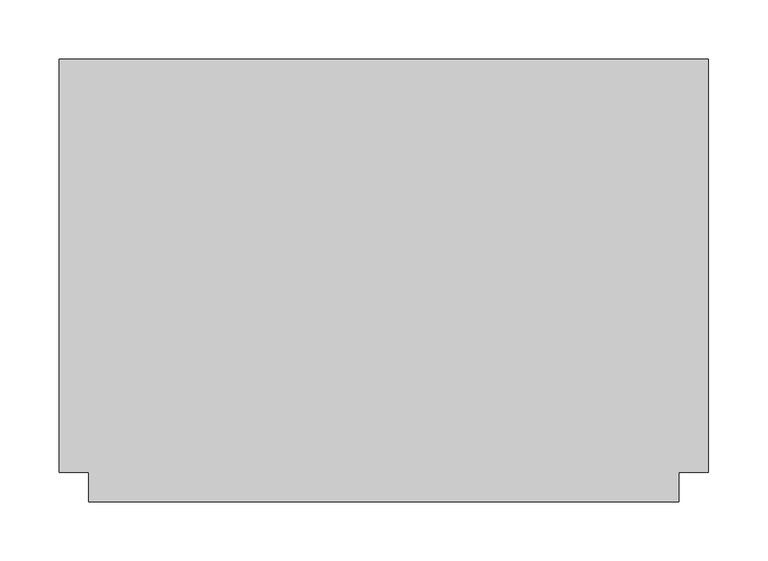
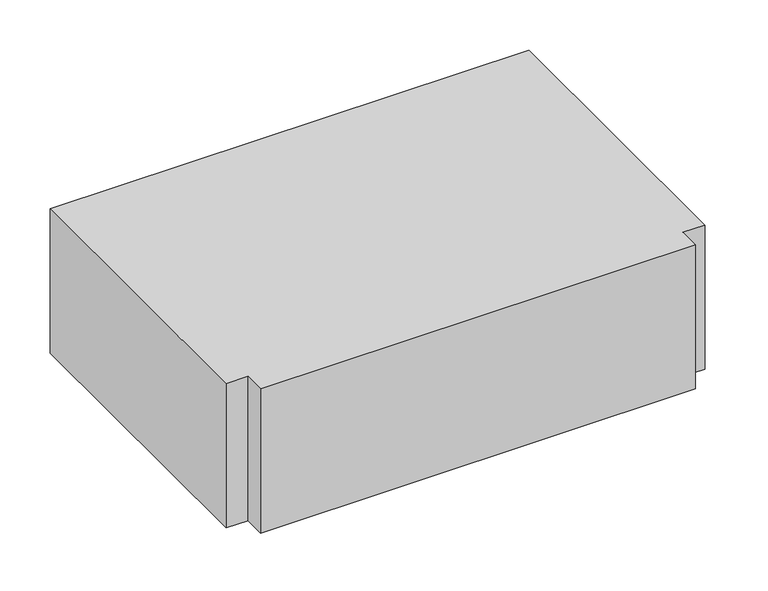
"""IFC4 building model written with IfcOpenShell, lengths in millimetres: duct fitting geometry, M_Te rectangular : Estándar."""

import ifcopenshell
import ifcopenshell.guid

model = None  # the IFC model being written
_history = None  # IfcOwnerHistory: only IFC2X3 demands one
_inside = {}  # id of a spatial element -> (the spatial element, [elements in it])
_under = {}  # id of a project, library or spatial element -> (it, [spatial elements below it])
_declared = {}  # id of a project -> (the project, [libraries it declares])
_typed = {}  # id of a type object -> (the type object, [elements of that type])
_made_of = {}  # id of a material, layer set ... -> (it, [elements and type objects made of it])


def new_model(schema):
    """Start an empty IFC model of exactly this schema.

    Asked for "IFC4X3", IfcOpenShell would pick the latest addendum, in which some entities
    have other attributes; the version numbers below select the first issue.
    IFC2X3 requires an IfcOwnerHistory on every rooted entity: one is made here for all.
    """
    global model, _history
    if schema == "IFC4X3":
        model = ifcopenshell.file(schema_version=(4, 3, 0, 0))
    else:
        model = ifcopenshell.file(schema=schema)
    _inside.clear()
    _under.clear()
    _declared.clear()
    _typed.clear()
    _made_of.clear()
    _history = None
    if model.schema == "IFC2X3":
        org = make("IfcOrganization", Name="unknown")
        user = make(
            "IfcPersonAndOrganization",
            ThePerson=make("IfcPerson", FamilyName="unknown"),
            TheOrganization=org,
        )
        app = make(
            "IfcApplication",
            ApplicationDeveloper=org,
            Version="unknown",
            ApplicationFullName="unknown",
            ApplicationIdentifier="unknown",
        )
        _history = make(
            "IfcOwnerHistory",
            OwningUser=user,
            OwningApplication=app,
            ChangeAction="ADDED",
            CreationDate=0,
        )
    return model


def make(cls, **values):
    """One entity of the class cls with the attributes given. An attribute that is None is left unset."""
    return model.create_entity(
        cls, **{name: value for name, value in values.items() if value is not None}
    )


def rooted(cls, **values):
    """An entity with a GlobalId (a new one), such as an element, a storey or a relation."""
    return make(cls, GlobalId=ifcopenshell.guid.new(), OwnerHistory=_history, **values)


def si_unit(unit_type, name, prefix=None):
    """IfcSIUnit, for example si_unit("LENGTHUNIT", "METRE", prefix="MILLI")."""
    return make("IfcSIUnit", UnitType=unit_type, Prefix=prefix, Name=name)


def assignment(units):
    """IfcUnitAssignment: the units of a project."""
    return None if units is None else make("IfcUnitAssignment", Units=units)


def point(xyz):
    """IfcCartesianPoint."""
    return None if xyz is None else make("IfcCartesianPoint", Coordinates=xyz)


def direction(xyz):
    """IfcDirection."""
    return None if xyz is None else make("IfcDirection", DirectionRatios=xyz)


def frame(location, z_axis=None, x_axis=None):
    """IfcAxis2Placement3D, a coordinate frame: its origin and axes. An axis left out is left unset."""
    return make(
        "IfcAxis2Placement3D",
        Location=point(location),
        Axis=direction(z_axis),
        RefDirection=direction(x_axis),
    )


def origin():
    """The frame at (0, 0, 0) with its axes left unset."""
    return frame((0.0, 0.0, 0.0))


def place(relative_to, where):
    """IfcLocalPlacement: puts the frame where relative to a parent placement (None: the world)."""
    return make(
        "IfcLocalPlacement", PlacementRelTo=relative_to, RelativePlacement=where
    )


def context(
    kind, dimensions, precision=None, world=None, true_north=None, identifier=None
):
    """IfcGeometricRepresentationContext, for example the 3D "Model" context."""
    return make(
        "IfcGeometricRepresentationContext",
        ContextIdentifier=identifier,
        ContextType=kind,
        CoordinateSpaceDimension=dimensions,
        Precision=precision,
        WorldCoordinateSystem=world,
        TrueNorth=true_north,
    )


def project(units=None, contexts=None):
    """IfcProject with its units and contexts."""
    return rooted(
        "IfcProject",
        Name="project",
        RepresentationContexts=contexts,
        UnitsInContext=assignment(units),
    )


def spatial(cls, under=None, at=None, **own):
    """A site, building, storey or space (cls), placed at a placement, below another one or the project."""
    s = rooted(cls, ObjectPlacement=at, **own)
    if under is not None:
        _under.setdefault(under.id(), (under, []))[1].append(s)
    return s


def polyline(points):
    """IfcPolyline through the points."""
    return make("IfcPolyline", Points=[point(p) for p in points])


def outline(outer, holes=None, kind="AREA"):
    """IfcArbitraryClosedProfileDef: a profile drawn as a closed curve; with holes, ...WithVoids."""
    if holes is None:
        return make("IfcArbitraryClosedProfileDef", ProfileType=kind, OuterCurve=outer)
    return make(
        "IfcArbitraryProfileDefWithVoids",
        ProfileType=kind,
        OuterCurve=outer,
        InnerCurves=holes,
    )


def extrude(swept, where, along, depth):
    """IfcExtrudedAreaSolid: the profile swept, set in the frame where, extruded along a direction by depth."""
    return make(
        "IfcExtrudedAreaSolid",
        SweptArea=swept,
        Position=where,
        ExtrudedDirection=direction(along),
        Depth=depth,
    )


def shape(context_of_items, identifier, shape_type, items):
    """IfcShapeRepresentation: the items that make up one representation, for example the "Body"."""
    return make(
        "IfcShapeRepresentation",
        ContextOfItems=context_of_items,
        RepresentationIdentifier=identifier,
        RepresentationType=shape_type,
        Items=items,
    )


def source(mapping_origin, context_of_items, identifier, shape_type, items):
    """IfcRepresentationMap: a shape defined once, which mapped items show again and again."""
    return make(
        "IfcRepresentationMap",
        MappingOrigin=mapping_origin,
        MappedRepresentation=shape(context_of_items, identifier, shape_type, items),
    )


def transform(
    local_origin,
    x_axis=None,
    y_axis=None,
    z_axis=None,
    scale=None,
    scale2=None,
    scale3=None,
    uniform=True,
):
    """IfcCartesianTransformationOperator3D, or its non-uniform kind. x_axis, y_axis, z_axis: its Axis1, 2, 3."""
    if uniform:
        return make(
            "IfcCartesianTransformationOperator3D",
            Axis1=direction(x_axis),
            Axis2=direction(y_axis),
            LocalOrigin=point(local_origin),
            Scale=scale,
            Axis3=direction(z_axis),
        )
    return make(
        "IfcCartesianTransformationOperator3DnonUniform",
        Axis1=direction(x_axis),
        Axis2=direction(y_axis),
        LocalOrigin=point(local_origin),
        Scale=scale,
        Axis3=direction(z_axis),
        Scale2=scale2,
        Scale3=scale3,
    )


def mapped(mapping_source, mapping_target):
    """IfcMappedItem: shows the shape of a source again, moved by a transform."""
    return make(
        "IfcMappedItem", MappingSource=mapping_source, MappingTarget=mapping_target
    )


def made_of(thing, what):
    """Note that an element or type object is made of a material, layer set ...; save() writes the relation."""
    if what is not None:
        _made_of.setdefault(what.id(), (what, []))[1].append(thing)
    return thing


def element(
    cls,
    number,
    at=None,
    inside=None,
    cuts=None,
    type_object=None,
    material=None,
    context=None,
    identifier="Body",
    shape_type=None,
    held_by="IfcProductDefinitionShape",
    body=None,
    shapes=None,
    **own,
):
    """One element of the class cls, such as IfcWall. Its Tag is "e" and its number.

    at: its placement. inside: the storey or other place that contains it. cuts: it is an
    opening in that element (IfcRelVoidsElement). A single representation is given by context,
    identifier, shape_type and body (its items); several are given by shapes. held_by: the class
    of the entity that holds the representations. save() writes the other relations.
    """
    e = rooted(cls, Tag="e%d" % number, ObjectPlacement=at, **own)
    if body is not None:
        shapes = [shape(context, identifier, shape_type, body)]
    if shapes is not None:
        e.Representation = make(held_by, Representations=shapes)
    if inside is not None:
        _inside.setdefault(inside.id(), (inside, []))[1].append(e)
    if cuts is not None:
        rooted(
            "IfcRelVoidsElement", RelatingBuildingElement=cuts, RelatedOpeningElement=e
        )
    if type_object is not None:
        _typed.setdefault(type_object.id(), (type_object, []))[1].append(e)
    return made_of(e, material)


def aggregate(whole, parts):
    """IfcRelAggregates: a whole, such as a stair, and the parts it consists of."""
    return rooted("IfcRelAggregates", RelatingObject=whole, RelatedObjects=parts)


def save(model, path):
    """Write the relations noted so far, then the file.

    IfcRelAggregates (storeys below a building ...), IfcRelContainedInSpatialStructure (elements
    in a storey), IfcRelDefinesByType, IfcRelAssociatesMaterial and IfcRelDeclares: one each for
    every whole, place, type object, material and project.
    """
    for whole, parts in _under.values():
        aggregate(whole, parts)
    for where, things in _inside.values():
        rooted(
            "IfcRelContainedInSpatialStructure",
            RelatedElements=things,
            RelatingStructure=where,
        )
    for kind, things in _typed.values():
        rooted("IfcRelDefinesByType", RelatedObjects=things, RelatingType=kind)
    for what, things in _made_of.values():
        rooted("IfcRelAssociatesMaterial", RelatedObjects=things, RelatingMaterial=what)
    for by, libraries in _declared.values():
        rooted("IfcRelDeclares", RelatingContext=by, RelatedDefinitions=libraries)
    model.write(path)


def duct_fitting_14b06d28(model_context):
    return source(origin(), model_context, "Body", "SweptSolid", [
        extrude(outline(polyline([(-275.0, -175.0), (-275.0, 175.0), (275.0, 175.0), (275.0, -175.0), (250.0, -175.0), (250.0, -200.0), (-250.0, -200.0), (-250.0, -175.0), (-275.0, -175.0)])), frame((0.0, 0.0, -87.5), z_axis=(0.0, 0.0, 1.0), x_axis=(1.0, 0.0, 0.0)), (0.0, 0.0, 1.0), 175.0),
    ])


if __name__ == "__main__":
    model = new_model("IFC4")
    model_context = context("Model", 3, world=origin())
    ifc_project = project(units=[si_unit("LENGTHUNIT", "METRE", prefix="MILLI")], contexts=[model_context])
    site = spatial("IfcSite", under=ifc_project)
    building = spatial("IfcBuilding", under=site)
    placement = place(None, origin())
    duct_fitting_shape = duct_fitting_14b06d28(model_context)
    element("IfcDuctFitting", 1, ObjectType="M_Te rectangular : Estándar", at=placement, inside=building, context=model_context, shape_type="MappedRepresentation", body=[
        mapped(duct_fitting_shape, transform((0.0, 0.0, 0.0), x_axis=(1.0, 0.0, 0.0), y_axis=(0.0, 1.0, 0.0), z_axis=(0.0, 0.0, 1.0))),
    ])
    save(model, "model.ifc")
